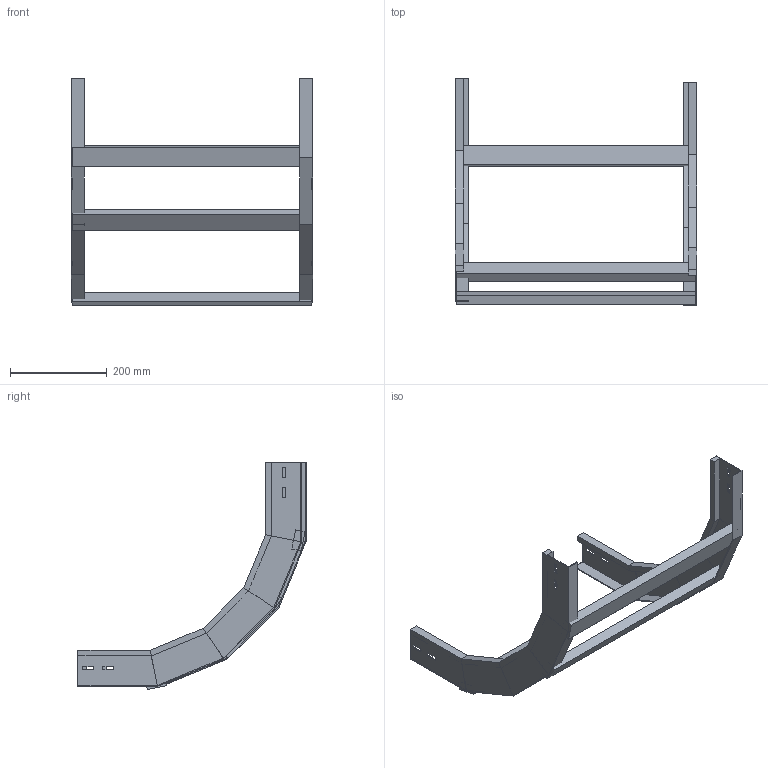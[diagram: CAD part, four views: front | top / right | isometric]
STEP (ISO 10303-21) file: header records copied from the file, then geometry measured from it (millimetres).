
FILE_DESCRIPTION (( 'STEP AP214' ), '1' );
FILE_NAME ('A2X30B3C500XX.step', '2025-04-02T08:44:36', ( '' ), ( '' ), 'SwSTEP 2.0', 'SolidWorks 2023', '' );
FILE_SCHEMA (( 'AUTOMOTIVE_DESIGN' ));
Length unit declared in the file: millimetre
Products named in the file (3): LONGH.SALITA_90°_H75_R300; TRAVERSINO_500; A2X30B3C500XX
Assembly tree (5 placements, depth 2):
  A2X30B3C500XX
    LONGH.SALITA_90°_H75_R300  x2
    TRAVERSINO_500  x3
Bounding box: 500 x 472.38 x 470.38 mm (x, y, z)
Volume: 1750191.7 mm3; surface area: 525174.2 mm2
Topology: 5 solids, 5 shells, 134 faces, 308 edges, 184 vertices
Faces by surface type: plane 134
Entity records: 1864 total; most frequent: CARTESIAN_POINT 308, ORIENTED_EDGE 296, DIRECTION 292, EDGE_CURVE 148, LINE 148, VECTOR 148, VERTEX_POINT 88, AXIS2_PLACEMENT_3D 72
